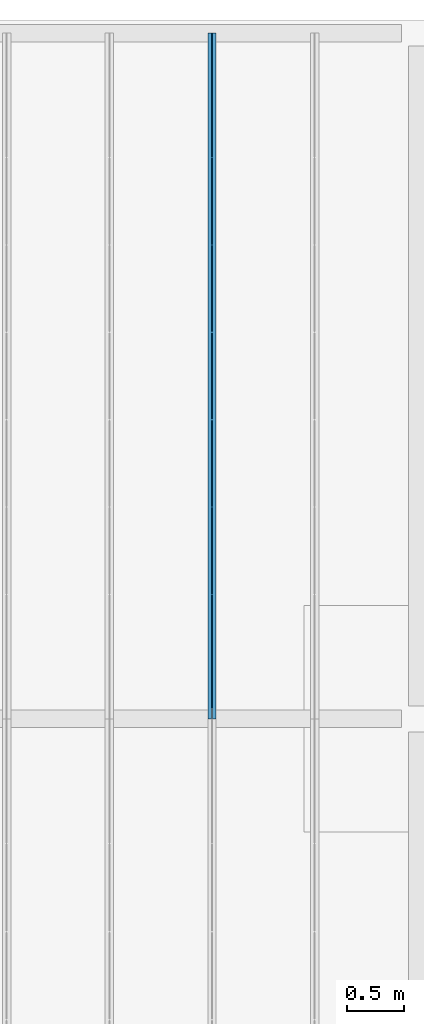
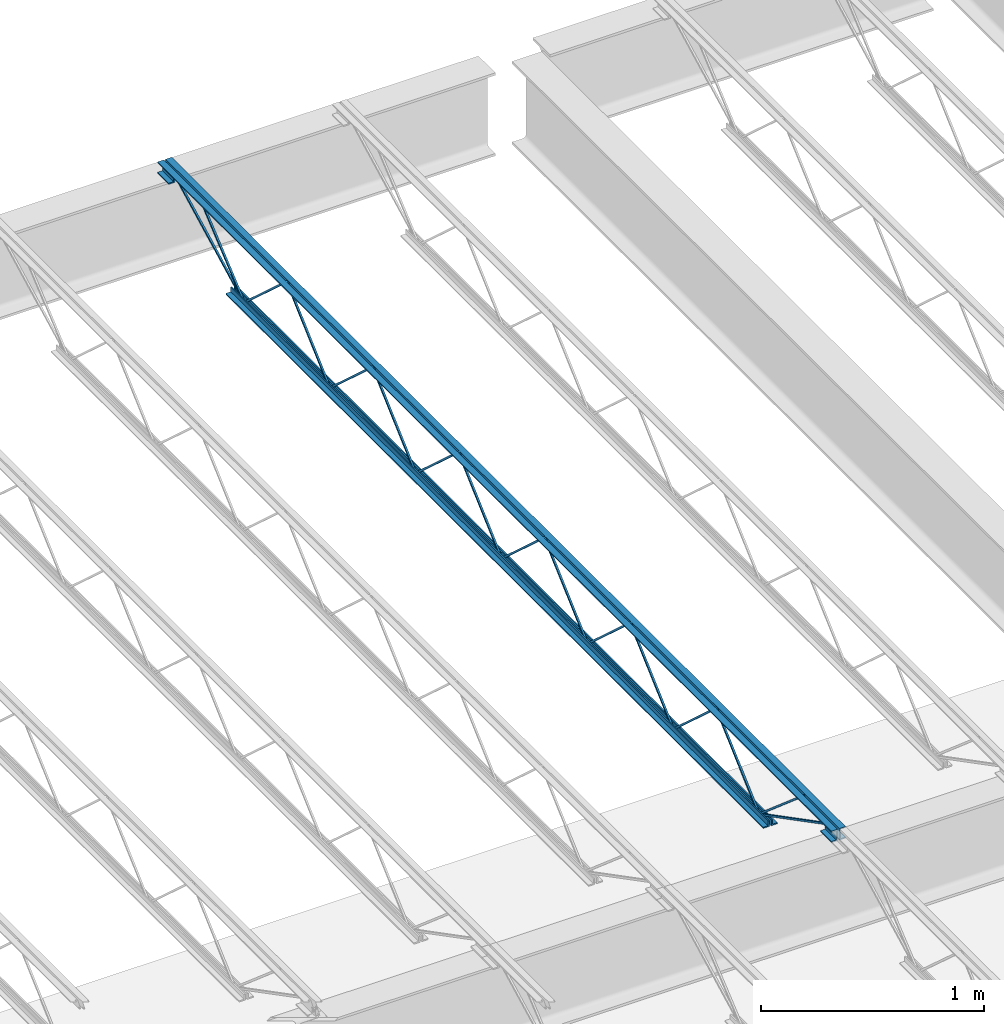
# One storey, part 44 of 75: 1 beam.
"""IFC2X3 building model written with IfcOpenShell, lengths in metres."""

import ifcopenshell
import ifcopenshell.guid

model = None  # the IFC model being written
_history = None  # IfcOwnerHistory: only IFC2X3 demands one
_inside = {}  # id of a spatial element -> (the spatial element, [elements in it])
_under = {}  # id of a project, library or spatial element -> (it, [spatial elements below it])
_declared = {}  # id of a project -> (the project, [libraries it declares])
_typed = {}  # id of a type object -> (the type object, [elements of that type])
_made_of = {}  # id of a material, layer set ... -> (it, [elements and type objects made of it])


def new_model(schema):
    """Start an empty IFC model of exactly this schema.

    Asked for "IFC4X3", IfcOpenShell would pick the latest addendum, in which some entities
    have other attributes; the version numbers below select the first issue.
    IFC2X3 requires an IfcOwnerHistory on every rooted entity: one is made here for all.
    """
    global model, _history
    if schema == "IFC4X3":
        model = ifcopenshell.file(schema_version=(4, 3, 0, 0))
    else:
        model = ifcopenshell.file(schema=schema)
    _inside.clear()
    _under.clear()
    _declared.clear()
    _typed.clear()
    _made_of.clear()
    _history = None
    if model.schema == "IFC2X3":
        org = make("IfcOrganization", Name="unknown")
        user = make(
            "IfcPersonAndOrganization",
            ThePerson=make("IfcPerson", FamilyName="unknown"),
            TheOrganization=org,
        )
        app = make(
            "IfcApplication",
            ApplicationDeveloper=org,
            Version="unknown",
            ApplicationFullName="unknown",
            ApplicationIdentifier="unknown",
        )
        _history = make(
            "IfcOwnerHistory",
            OwningUser=user,
            OwningApplication=app,
            ChangeAction="ADDED",
            CreationDate=0,
        )
    return model


def make(cls, **values):
    """One entity of the class cls with the attributes given. An attribute that is None is left unset."""
    return model.create_entity(
        cls, **{name: value for name, value in values.items() if value is not None}
    )


def entity(cls, *values):
    """Any entity or typed value of the class cls, its attributes in the order of the schema. None: left unset."""
    e = model.create_entity(cls)
    for i, value in enumerate(values):
        if value is not None:
            e[i] = value
    return e


def rooted(cls, **values):
    """An entity with a GlobalId (a new one), such as an element, a storey or a relation."""
    return make(cls, GlobalId=ifcopenshell.guid.new(), OwnerHistory=_history, **values)


def si_unit(unit_type, name, prefix=None):
    """IfcSIUnit, for example si_unit("LENGTHUNIT", "METRE", prefix="MILLI")."""
    return make("IfcSIUnit", UnitType=unit_type, Prefix=prefix, Name=name)


def converted_unit(unit_type, name, factor, base, dimensions=None, offset=None):
    """IfcConversionBasedUnit, such as the inch: factor (a typed value) times the base unit."""
    return make(
        "IfcConversionBasedUnit"
        if offset is None
        else "IfcConversionBasedUnitWithOffset",
        ConversionOffset=offset,
        Dimensions=None
        if dimensions is None
        else entity("IfcDimensionalExponents", *dimensions),
        UnitType=unit_type,
        Name=name,
        ConversionFactor=make(
            "IfcMeasureWithUnit", ValueComponent=factor, UnitComponent=base
        ),
    )


def assignment(units):
    """IfcUnitAssignment: the units of a project."""
    return None if units is None else make("IfcUnitAssignment", Units=units)


def point(xyz):
    """IfcCartesianPoint."""
    return None if xyz is None else make("IfcCartesianPoint", Coordinates=xyz)


def direction(xyz):
    """IfcDirection."""
    return None if xyz is None else make("IfcDirection", DirectionRatios=xyz)


def frame(location, z_axis=None, x_axis=None):
    """IfcAxis2Placement3D, a coordinate frame: its origin and axes. An axis left out is left unset."""
    return make(
        "IfcAxis2Placement3D",
        Location=point(location),
        Axis=direction(z_axis),
        RefDirection=direction(x_axis),
    )


def origin():
    """The frame at (0, 0, 0) with its axes left unset."""
    return frame((0.0, 0.0, 0.0))


def place(relative_to, where):
    """IfcLocalPlacement: puts the frame where relative to a parent placement (None: the world)."""
    return make(
        "IfcLocalPlacement", PlacementRelTo=relative_to, RelativePlacement=where
    )


def context(
    kind, dimensions, precision=None, world=None, true_north=None, identifier=None
):
    """IfcGeometricRepresentationContext, for example the 3D "Model" context."""
    return make(
        "IfcGeometricRepresentationContext",
        ContextIdentifier=identifier,
        ContextType=kind,
        CoordinateSpaceDimension=dimensions,
        Precision=precision,
        WorldCoordinateSystem=world,
        TrueNorth=true_north,
    )


def project(units=None, contexts=None):
    """IfcProject with its units and contexts."""
    return rooted(
        "IfcProject",
        Name="project",
        RepresentationContexts=contexts,
        UnitsInContext=assignment(units),
    )


def spatial(cls, under=None, at=None, **own):
    """A site, building, storey or space (cls), placed at a placement, below another one or the project."""
    s = rooted(cls, ObjectPlacement=at, **own)
    if under is not None:
        _under.setdefault(under.id(), (under, []))[1].append(s)
    return s


def faces_of(points, faces, orient=None, outer=None):
    """IfcFace entities. A face is a list of loops; a loop is a list of indices into points, from 0.

    orient and outer hold one flag for each loop. By default every Orientation is true, the
    first loop of a face is its IfcFaceOuterBound and the others are IfcFaceBound.
    """
    made = []
    for i, loops in enumerate(faces):
        bounds = []
        for j, loop in enumerate(loops):
            is_outer = j == 0 if outer is None else outer[i][j]
            bounds.append(
                make(
                    "IfcFaceOuterBound" if is_outer else "IfcFaceBound",
                    Bound=make("IfcPolyLoop", Polygon=[points[k] for k in loop]),
                    Orientation=True if orient is None else orient[i][j],
                )
            )
        made.append(make("IfcFace", Bounds=bounds))
    return made


def face_set(faces, orient=None, outer=None):
    """The faces of one IfcConnectedFaceSet. surface_model builds it on its shared points."""
    return ("IfcConnectedFaceSet", faces, orient, outer)


def surface_model(cls, points, shells):
    """IfcFaceBasedSurfaceModel or IfcShellBasedSurfaceModel (cls): surfaces that need not close."""
    shared = [point(p) for p in points]
    made = [make(c, CfsFaces=faces_of(shared, fs, o, b)) for c, fs, o, b in shells]
    if cls == "IfcFaceBasedSurfaceModel":
        return make(cls, FbsmFaces=made)
    return make(cls, SbsmBoundary=made)


def shape(context_of_items, identifier, shape_type, items):
    """IfcShapeRepresentation: the items that make up one representation, for example the "Body"."""
    return make(
        "IfcShapeRepresentation",
        ContextOfItems=context_of_items,
        RepresentationIdentifier=identifier,
        RepresentationType=shape_type,
        Items=items,
    )


def made_of(thing, what):
    """Note that an element or type object is made of a material, layer set ...; save() writes the relation."""
    if what is not None:
        _made_of.setdefault(what.id(), (what, []))[1].append(thing)
    return thing


def element(
    cls,
    number,
    at=None,
    inside=None,
    cuts=None,
    type_object=None,
    material=None,
    context=None,
    identifier="Body",
    shape_type=None,
    held_by="IfcProductDefinitionShape",
    body=None,
    shapes=None,
    **own,
):
    """One element of the class cls, such as IfcWall. Its Tag is "e" and its number.

    at: its placement. inside: the storey or other place that contains it. cuts: it is an
    opening in that element (IfcRelVoidsElement). A single representation is given by context,
    identifier, shape_type and body (its items); several are given by shapes. held_by: the class
    of the entity that holds the representations. save() writes the other relations.
    """
    e = rooted(cls, Tag="e%d" % number, ObjectPlacement=at, **own)
    if body is not None:
        shapes = [shape(context, identifier, shape_type, body)]
    if shapes is not None:
        e.Representation = make(held_by, Representations=shapes)
    if inside is not None:
        _inside.setdefault(inside.id(), (inside, []))[1].append(e)
    if cuts is not None:
        rooted(
            "IfcRelVoidsElement", RelatingBuildingElement=cuts, RelatedOpeningElement=e
        )
    if type_object is not None:
        _typed.setdefault(type_object.id(), (type_object, []))[1].append(e)
    return made_of(e, material)


def aggregate(whole, parts):
    """IfcRelAggregates: a whole, such as a stair, and the parts it consists of."""
    return rooted("IfcRelAggregates", RelatingObject=whole, RelatedObjects=parts)


def save(model, path):
    """Write the relations noted so far, then the file.

    IfcRelAggregates (storeys below a building ...), IfcRelContainedInSpatialStructure (elements
    in a storey), IfcRelDefinesByType, IfcRelAssociatesMaterial and IfcRelDeclares: one each for
    every whole, place, type object, material and project.
    """
    for whole, parts in _under.values():
        aggregate(whole, parts)
    for where, things in _inside.values():
        rooted(
            "IfcRelContainedInSpatialStructure",
            RelatedElements=things,
            RelatingStructure=where,
        )
    for kind, things in _typed.values():
        rooted("IfcRelDefinesByType", RelatedObjects=things, RelatingType=kind)
    for what, things in _made_of.values():
        rooted("IfcRelAssociatesMaterial", RelatedObjects=things, RelatingMaterial=what)
    for by, libraries in _declared.values():
        rooted("IfcRelDeclares", RelatingContext=by, RelatedDefinitions=libraries)
    model.write(path)


model = new_model("IFC2X3")

# Units and contexts
model_context = context("Model", 3, precision=1e-09, world=origin())
plan_context = context("Plan", 3, precision=1e-09, world=origin())
ifc_project = project(units=[si_unit("LENGTHUNIT", "METRE"), si_unit("AREAUNIT", "SQUARE_METRE"), si_unit("VOLUMEUNIT", "CUBIC_METRE"), converted_unit("PLANEANGLEUNIT", "DEGREE", entity("IfcRatioMeasure", 0.01745329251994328), si_unit("PLANEANGLEUNIT", "RADIAN"), dimensions=[0, 0, 0, 0, 0, 0, 0]), si_unit("TIMEUNIT", "SECOND")], contexts=[model_context, plan_context])

# Site, building, storey
site_placement = place(None, origin())
site = spatial("IfcSite", under=ifc_project, at=site_placement, Name="Default", CompositionType="ELEMENT")
building_placement = place(site_placement, origin())
building = spatial("IfcBuilding", under=site, at=building_placement, CompositionType="ELEMENT")
storey_placement = place(building_placement, origin())
storey = spatial("IfcBuildingStorey", under=building, at=storey_placement, Name="First Floor", CompositionType="ELEMENT", Elevation=-3.531500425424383e-13)

# Beam
beam_placement = place(storey_placement, frame((-42.50817857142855, 50.09000000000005, 4.112000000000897), z_axis=(0.0, 0.0, 1.0), x_axis=(-1.0, 0.0, 0.0)))
element("IfcBeam", 1, at=beam_placement, inside=storey, Name="M_K-Series Bar Joist-Rod Web:14K1:14K1", ObjectType="M_K-Series Bar Joist-Rod Web:14K1", context=model_context, shape_type="SurfaceModel", body=[
    surface_model("IfcFaceBasedSurfaceModel", [(-0.03199999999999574, -2.254000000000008, 0.01110000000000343), (-0.04150000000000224, -2.254000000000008, 0.01110000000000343), (-0.04150000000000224, -2.254000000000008, 0.001600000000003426), (-0.03199999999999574, -2.254000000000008, 0.001600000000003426), (-0.04149999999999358, -2.252655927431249, 0.01110000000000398), (-0.03199999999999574, -2.252655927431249, 0.01110000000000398), (-0.04150000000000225, -2.248994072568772, 0.001600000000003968), (-0.04150000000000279, -1.869844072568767, 0.3449000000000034), (-0.0415000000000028, -1.86715592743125, 0.3449000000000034), (-0.04150000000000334, -1.48800592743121, 0.001600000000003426), (-0.04150000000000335, -1.483000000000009, 0.001600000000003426), (-0.04150000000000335, -1.483000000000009, 0.01110000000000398), (-0.04150000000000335, -1.484344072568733, 0.01110000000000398), (-0.04150000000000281, -1.863494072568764, 0.3544000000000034), (-0.04150000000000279, -1.873505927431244, 0.3544000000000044), (-0.03200000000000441, -2.248994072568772, 0.001600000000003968), (-0.03199999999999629, -1.869844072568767, 0.3449000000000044), (-0.0319999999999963, -1.86715592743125, 0.3449000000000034), (-0.03199999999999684, -1.48800592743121, 0.001600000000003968), (-0.03199999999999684, -1.483000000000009, 0.001600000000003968), (-0.03199999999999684, -1.483000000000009, 0.01110000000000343), (-0.03199999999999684, -1.484344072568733, 0.01110000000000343), (-0.0319999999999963, -1.863494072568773, 0.3544000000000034), (-0.03199999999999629, -1.873505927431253, 0.3544000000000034), (-0.03199999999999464, -3.025000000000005, 0.01110000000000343), (-0.04150000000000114, -3.025000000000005, 0.01110000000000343), (-0.04150000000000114, -3.025000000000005, 0.001600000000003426), (-0.03199999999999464, -3.025000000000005, 0.001600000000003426), (-0.04149999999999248, -3.023655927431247, 0.01110000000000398), (-0.03199999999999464, -3.023655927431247, 0.01110000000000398), (-0.04150000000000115, -3.01999407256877, 0.001600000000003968), (-0.04150000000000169, -2.640844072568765, 0.3449000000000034), (-0.04150000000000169, -2.638155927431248, 0.3449000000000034), (-0.04150000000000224, -2.259005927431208, 0.001600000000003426), (-0.04150000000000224, -2.254000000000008, 0.01110000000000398), (-0.04150000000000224, -2.255344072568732, 0.01110000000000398), (-0.0415000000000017, -2.634494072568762, 0.3544000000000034), (-0.04150000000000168, -2.644505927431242, 0.3544000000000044), (-0.03200000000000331, -3.01999407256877, 0.001600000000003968), (-0.03199999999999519, -2.640844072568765, 0.3449000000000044), (-0.03199999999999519, -2.638155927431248, 0.3449000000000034), (-0.03199999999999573, -2.259005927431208, 0.001600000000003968), (-0.03199999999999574, -2.254000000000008, 0.001600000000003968), (-0.03199999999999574, -2.255344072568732, 0.01110000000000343), (-0.0319999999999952, -2.634494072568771, 0.3544000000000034), (-0.03199999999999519, -2.644505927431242, 0.3544000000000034), (-0.03199999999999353, -3.796000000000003, 0.01110000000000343), (-0.04150000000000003, -3.796000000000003, 0.01110000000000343), (-0.04150000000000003, -3.796000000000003, 0.001600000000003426), (-0.03199999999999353, -3.796000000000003, 0.001600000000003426), (-0.04149999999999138, -3.794655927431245, 0.01110000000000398), (-0.03199999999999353, -3.794655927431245, 0.01110000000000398), (-0.04150000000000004, -3.790994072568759, 0.001600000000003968), (-0.04150000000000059, -3.411844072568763, 0.3449000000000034), (-0.04150000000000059, -3.409155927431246, 0.3449000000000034), (-0.04150000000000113, -3.030005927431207, 0.001600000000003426), (-0.04150000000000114, -3.025000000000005, 0.01110000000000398), (-0.04150000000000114, -3.026344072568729, 0.01110000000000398), (-0.0415000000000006, -3.40549407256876, 0.3544000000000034), (-0.04150000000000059, -3.41550592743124, 0.3544000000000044), (-0.03200000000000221, -3.790994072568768, 0.001600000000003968), (-0.03199999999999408, -3.411844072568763, 0.3449000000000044), (-0.03199999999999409, -3.409155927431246, 0.3449000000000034), (-0.03199999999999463, -3.030005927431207, 0.001600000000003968), (-0.03199999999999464, -3.025000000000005, 0.001600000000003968), (-0.03199999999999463, -3.026344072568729, 0.01110000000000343), (-0.03199999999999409, -3.40549407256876, 0.3544000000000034), (-0.03199999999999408, -3.41550592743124, 0.3544000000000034), (-0.03199999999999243, -4.567000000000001, 0.01110000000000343), (-0.04149999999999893, -4.567000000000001, 0.01110000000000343), (-0.04149999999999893, -4.567000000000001, 0.001600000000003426), (-0.03199999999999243, -4.567000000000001, 0.001600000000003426), (-0.04149999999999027, -4.565655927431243, 0.01110000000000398), (-0.03199999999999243, -4.565655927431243, 0.01110000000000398), (-0.04149999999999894, -4.561994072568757, 0.001600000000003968), (-0.04149999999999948, -4.182844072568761, 0.3449000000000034), (-0.04149999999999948, -4.180155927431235, 0.3449000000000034), (-0.04150000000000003, -3.801005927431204, 0.001600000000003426), (-0.04150000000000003, -3.795999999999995, 0.001600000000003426), (-0.04150000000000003, -3.796000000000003, 0.01110000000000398), (-0.04150000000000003, -3.797344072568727, 0.01110000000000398), (-0.04149999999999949, -4.176494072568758, 0.3544000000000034), (-0.04149999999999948, -4.186505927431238, 0.3544000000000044), (-0.0320000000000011, -4.561994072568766, 0.001600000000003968), (-0.03199999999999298, -4.182844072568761, 0.3449000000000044), (-0.03199999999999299, -4.180155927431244, 0.3449000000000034), (-0.03199999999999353, -3.801005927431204, 0.001600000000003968), (-0.03199999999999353, -3.796000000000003, 0.001600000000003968), (-0.03199999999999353, -3.795999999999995, 0.01110000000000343), (-0.03199999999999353, -3.797344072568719, 0.01110000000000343), (-0.03199999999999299, -4.176494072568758, 0.3544000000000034), (-0.03199999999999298, -4.186505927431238, 0.3544000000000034), (-0.03199999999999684, -1.483000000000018, 0.01109999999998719), (-0.04150000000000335, -1.483000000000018, 0.01109999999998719), (-0.04150000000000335, -1.483000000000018, 0.001599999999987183), (-0.03199999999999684, -1.483000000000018, 0.001599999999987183), (-0.04150000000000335, -1.48165592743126, 0.01109999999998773), (-0.03200000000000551, -1.48165592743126, 0.01109999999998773), (-0.04150000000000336, -1.477994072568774, 0.001599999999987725), (-0.0415000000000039, -1.098844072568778, 0.3448999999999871), (-0.0415000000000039, -1.096155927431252, 0.3448999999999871), (-0.04150000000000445, -0.717005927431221, 0.001599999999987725), (-0.04150000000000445, -0.7120000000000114, 0.001599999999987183), (-0.04150000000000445, -0.7120000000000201, 0.01109999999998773), (-0.04150000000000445, -0.713344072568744, 0.01109999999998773), (-0.04150000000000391, -1.092494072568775, 0.3543999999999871), (-0.04150000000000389, -1.102505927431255, 0.3543999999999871), (-0.03200000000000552, -1.477994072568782, 0.001599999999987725), (-0.03200000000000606, -1.098844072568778, 0.3448999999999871), (-0.03200000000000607, -1.09615592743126, 0.3448999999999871), (-0.03200000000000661, -0.717005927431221, 0.001599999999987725), (-0.03200000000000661, -0.7120000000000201, 0.001599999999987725), (-0.03199999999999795, -0.7120000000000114, 0.01109999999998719), (-0.03200000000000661, -0.7133440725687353, 0.01109999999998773), (-0.03200000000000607, -1.092494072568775, 0.3543999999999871), (-0.03200000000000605, -1.102505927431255, 0.3543999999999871), (-0.03199999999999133, -5.33799999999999, 0.01110000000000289), (-0.04149999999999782, -5.33799999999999, 0.01110000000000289), (-0.04149999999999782, -5.33799999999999, 0.001600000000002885), (-0.03199999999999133, -5.33799999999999, 0.001600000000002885), (-0.04149999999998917, -5.336655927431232, 0.01110000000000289), (-0.03199999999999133, -5.336655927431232, 0.01110000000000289), (-0.04149999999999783, -5.332994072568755, 0.001600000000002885), (-0.04149999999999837, -4.95384407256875, 0.3449000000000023), (-0.04149999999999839, -4.951155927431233, 0.3449000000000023), (-0.04149999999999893, -4.572005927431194, 0.001600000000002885), (-0.04149999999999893, -4.566999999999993, 0.001600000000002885), (-0.04149999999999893, -4.566999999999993, 0.01110000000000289), (-0.04149999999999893, -4.568344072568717, 0.01110000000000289), (-0.04149999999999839, -4.947494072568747, 0.3544000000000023), (-0.04149999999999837, -4.957505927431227, 0.3544000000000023), (-0.03199999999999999, -5.332994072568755, 0.001600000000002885), (-0.03199999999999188, -4.95384407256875, 0.3449000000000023), (-0.03199999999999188, -4.951155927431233, 0.3449000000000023), (-0.03199999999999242, -4.572005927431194, 0.001600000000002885), (-0.03199999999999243, -4.566999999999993, 0.001600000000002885), (-0.03199999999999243, -4.566999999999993, 0.01110000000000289), (-0.03199999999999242, -4.568344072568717, 0.01110000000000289), (-0.03199999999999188, -4.947494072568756, 0.3544000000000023), (-0.03199999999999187, -4.957505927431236, 0.3544000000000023), (-0.04150000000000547, 0.0, 0.3559999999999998), (-0.07350000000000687, 0.0, 0.3559999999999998), (-0.07350000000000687, 0.0, 0.349499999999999), (-0.048000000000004, 0.0, 0.349499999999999), (-0.048000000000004, 0.0, 0.3239999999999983), (-0.04150000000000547, 0.0, 0.3239999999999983), (-0.03200000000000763, 0.0, 0.3559999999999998), (-0.03200000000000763, 0.0, 0.3239999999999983), (-0.02550000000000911, 0.0, 0.3239999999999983), (-0.02550000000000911, 0.0, 0.349499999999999), (0.0, 0.0, 0.349499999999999), (0.0, 0.0, 0.3559999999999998), (-0.04149999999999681, -6.049999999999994, 0.3559999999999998), (-0.07349999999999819, -6.049999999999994, 0.3559999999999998), (-0.07349999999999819, -6.049999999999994, 0.349499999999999), (-0.04799999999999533, -6.049999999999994, 0.349499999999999), (-0.04799999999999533, -6.049999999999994, 0.3239999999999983), (-0.04149999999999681, -6.049999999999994, 0.3239999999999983), (-0.03199999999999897, -6.049999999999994, 0.3559999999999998), (-0.03199999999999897, -6.049999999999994, 0.3239999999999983), (-0.02550000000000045, -6.049999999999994, 0.3239999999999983), (-0.02550000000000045, -6.049999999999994, 0.349499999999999), (0.0, -6.049999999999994, 0.349499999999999), (0.0, -6.049999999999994, 0.3559999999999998), (-0.03199999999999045, -5.950000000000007, 0.2924999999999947), (0.0, -5.950000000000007, 0.2924999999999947), (0.0, -5.950000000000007, 0.2989999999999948), (-0.02549999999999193, -5.950000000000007, 0.2989999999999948), (-0.02549999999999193, -5.950000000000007, 0.3239999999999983), (-0.03199999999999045, -5.950000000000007, 0.3239999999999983), (-0.07349999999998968, -5.950000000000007, 0.2924999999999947), (-0.04149999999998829, -5.950000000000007, 0.2924999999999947), (-0.04149999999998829, -5.950000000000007, 0.3239999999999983), (-0.04799999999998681, -5.950000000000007, 0.3239999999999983), (-0.04799999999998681, -5.950000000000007, 0.2989999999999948), (-0.07349999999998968, -5.950000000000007, 0.2989999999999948), (-0.03199999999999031, -6.049999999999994, 0.2924999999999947), (0.0, -6.049999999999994, 0.2924999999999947), (0.0, -6.049999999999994, 0.2989999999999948), (-0.02549999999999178, -6.049999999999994, 0.2989999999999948), (-0.02549999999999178, -6.049999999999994, 0.3239999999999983), (-0.03199999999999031, -6.049999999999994, 0.3239999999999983), (-0.07349999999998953, -6.049999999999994, 0.2924999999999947), (-0.04149999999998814, -6.049999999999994, 0.2924999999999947), (-0.04149999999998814, -6.049999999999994, 0.3239999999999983), (-0.04799999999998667, -6.049999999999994, 0.3239999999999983), (-0.04799999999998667, -6.049999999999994, 0.2989999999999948), (-0.07349999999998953, -6.049999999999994, 0.2989999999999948), (-0.04149999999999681, 0.0, 0.2924999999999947), (-0.04149999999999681, 0.0, 0.3239999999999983), (-0.04799999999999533, 0.0, 0.3239999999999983), (-0.04799999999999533, 0.0, 0.2989999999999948), (-0.07349999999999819, 0.0, 0.2989999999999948), (-0.07349999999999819, 0.0, 0.2924999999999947), (-0.03199999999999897, 0.0, 0.2924999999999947), (0.0, 0.0, 0.2924999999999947), (0.0, 0.0, 0.2989999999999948), (-0.02550000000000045, 0.0, 0.2989999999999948), (-0.02550000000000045, 0.0, 0.3239999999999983), (-0.03199999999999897, 0.0, 0.3239999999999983), (-0.04149999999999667, -0.0999999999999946, 0.2924999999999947), (-0.04149999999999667, -0.0999999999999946, 0.3239999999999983), (-0.04799999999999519, -0.0999999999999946, 0.3239999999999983), (-0.04799999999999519, -0.0999999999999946, 0.2989999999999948), (-0.07349999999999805, -0.0999999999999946, 0.2989999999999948), (-0.07349999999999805, -0.0999999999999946, 0.2924999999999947), (-0.03199999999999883, -0.0999999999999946, 0.2924999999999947), (0.0, -0.0999999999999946, 0.2924999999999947), (0.0, -0.0999999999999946, 0.2989999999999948), (-0.0255000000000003, -0.0999999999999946, 0.2989999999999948), (-0.0255000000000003, -0.0999999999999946, 0.3239999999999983), (-0.03199999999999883, -0.0999999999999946, 0.3239999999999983), (-0.0415000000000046, -0.6119999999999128, 0.0), (-0.0415000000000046, -0.6119999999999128, 0.03199999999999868), (-0.04800000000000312, -0.6119999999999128, 0.03199999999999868), (-0.04800000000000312, -0.6119999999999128, 0.006499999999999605), (-0.07350000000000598, -0.6119999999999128, 0.006499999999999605), (-0.07350000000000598, -0.6119999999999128, 0.0), (-0.03200000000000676, -0.6119999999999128, 0.0), (0.0, -0.6119999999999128, 0.0), (0.0, -0.6119999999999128, 0.006499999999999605), (-0.02550000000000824, -0.6119999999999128, 0.006499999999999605), (-0.02550000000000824, -0.6119999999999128, 0.03199999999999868), (-0.03200000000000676, -0.6119999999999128, 0.03199999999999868), (-0.04149999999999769, -5.437999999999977, 0.0), (-0.04149999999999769, -5.437999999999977, 0.03199999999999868), (-0.04799999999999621, -5.437999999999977, 0.03199999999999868), (-0.04799999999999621, -5.437999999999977, 0.006499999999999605), (-0.07349999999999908, -5.437999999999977, 0.006499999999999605), (-0.07349999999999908, -5.437999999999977, 0.0), (-0.03199999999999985, -5.437999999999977, 0.0), (0.0, -5.437999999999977, 0.0), (0.0, -5.437999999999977, 0.006499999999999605), (-0.02550000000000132, -5.437999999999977, 0.006499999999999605), (-0.02550000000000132, -5.437999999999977, 0.03199999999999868), (-0.03199999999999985, -5.437999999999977, 0.03199999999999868), (-0.03199999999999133, -5.335811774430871, 0.01056594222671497), (-0.04149999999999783, -5.335811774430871, 0.01056594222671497), (-0.04149999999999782, -5.34018822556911, 0.002134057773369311), (-0.03199999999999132, -5.34018822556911, 0.002134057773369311), (-0.03199999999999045, -5.948840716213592, 0.3287499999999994), (-0.03199999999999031, -6.049999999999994, 0.3287499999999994), (-0.03199999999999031, -6.049999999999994, 0.3192499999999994), (-0.03199999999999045, -5.951159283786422, 0.3192499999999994), (-0.04149999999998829, -5.951159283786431, 0.3192499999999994), (-0.04149999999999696, -5.948840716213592, 0.3287499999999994), (-0.04149999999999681, -6.049999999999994, 0.3287499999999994), (-0.04149999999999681, -6.049999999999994, 0.3192499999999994), (-0.03199999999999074, -5.743457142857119, 0.341700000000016), (-0.04149999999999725, -5.743457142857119, 0.341700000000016), (-0.04149999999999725, -5.743457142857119, 0.332200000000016), (-0.03199999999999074, -5.743457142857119, 0.332200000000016), (-0.0414999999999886, -5.729024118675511, 0.341700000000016), (-0.03199999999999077, -5.729024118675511, 0.341700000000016), (-0.04149999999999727, -5.732490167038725, 0.332200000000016), (-0.04149999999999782, -5.341058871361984, 0.002716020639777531), (-0.04149999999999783, -5.334941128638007, 0.009983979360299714), (-0.03199999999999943, -5.732490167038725, 0.332200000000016), (-0.03199999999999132, -5.341058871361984, 0.002716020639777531), (-0.03199999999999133, -5.334941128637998, 0.009983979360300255), (-0.03199999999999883, -0.09781177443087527, 0.3197840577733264), (-0.03199999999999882, -0.1021882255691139, 0.3282159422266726), (-0.04150000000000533, -0.1021882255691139, 0.3282159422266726), (-0.04150000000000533, -0.09781177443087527, 0.3197840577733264), (-0.03199999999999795, -0.7098117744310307, 0.002134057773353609), (-0.03199999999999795, -0.7141882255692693, 0.01056594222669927), (-0.04150000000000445, -0.7141882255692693, 0.01056594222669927), (-0.04150000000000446, -0.7098117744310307, 0.002134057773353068), (-0.03199999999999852, -0.3088922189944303, 0.3460454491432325), (-0.03199999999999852, -0.3150792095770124, 0.3532545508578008), (-0.04150000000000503, -0.3150792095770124, 0.3532545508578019), (-0.04150000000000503, -0.3088922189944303, 0.3460454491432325), (-0.03199999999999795, -0.7089065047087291, 0.002745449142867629), (-0.03199999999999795, -0.715093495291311, 0.009954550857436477), (-0.04150000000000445, -0.715093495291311, 0.009954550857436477), (-0.04150000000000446, -0.7089065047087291, 0.002745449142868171)], [face_set([[[0, 1, 2, 3]], [[1, 4, 5, 0]], [[2, 6, 7, 8, 9, 10, 11, 12, 13, 14, 4, 1]], [[3, 2, 6, 15]], [[0, 3, 15, 16, 17, 18, 19, 20, 21, 22, 23, 5]], [[4, 5, 23, 14]], [[15, 16, 7, 6]], [[14, 13, 22, 23]], [[16, 7, 8, 17]], [[13, 12, 21, 22]], [[17, 8, 9, 18]], [[20, 11, 10, 19]], [[12, 11, 20, 21]], [[18, 9, 10, 19]]]), face_set([[[24, 25, 26, 27]], [[25, 28, 29, 24]], [[26, 30, 31, 32, 33, 2, 34, 35, 36, 37, 28, 25]], [[27, 26, 30, 38]], [[24, 27, 38, 39, 40, 41, 42, 0, 43, 44, 45, 29]], [[28, 29, 45, 37]], [[38, 39, 31, 30]], [[37, 36, 44, 45]], [[39, 31, 32, 40]], [[36, 35, 43, 44]], [[40, 32, 33, 41]], [[0, 34, 2, 42]], [[35, 34, 0, 43]], [[41, 33, 2, 42]]]), face_set([[[46, 47, 48, 49]], [[47, 50, 51, 46]], [[48, 52, 53, 54, 55, 26, 56, 57, 58, 59, 50, 47]], [[49, 48, 52, 60]], [[46, 49, 60, 61, 62, 63, 64, 24, 65, 66, 67, 51]], [[50, 51, 67, 59]], [[60, 61, 53, 52]], [[59, 58, 66, 67]], [[61, 53, 54, 62]], [[58, 57, 65, 66]], [[62, 54, 55, 63]], [[24, 56, 26, 64]], [[57, 56, 24, 65]], [[63, 55, 26, 64]]]), face_set([[[68, 69, 70, 71]], [[69, 72, 73, 68]], [[70, 74, 75, 76, 77, 78, 79, 80, 81, 82, 72, 69]], [[71, 70, 74, 83]], [[68, 71, 83, 84, 85, 86, 87, 88, 89, 90, 91, 73]], [[72, 73, 91, 82]], [[83, 84, 75, 74]], [[82, 81, 90, 91]], [[84, 75, 76, 85]], [[81, 80, 89, 90]], [[85, 76, 77, 86]], [[88, 79, 78, 87]], [[80, 79, 88, 89]], [[86, 77, 78, 87]]]), face_set([[[92, 93, 94, 95]], [[93, 96, 97, 92]], [[94, 98, 99, 100, 101, 102, 103, 104, 105, 106, 96, 93]], [[95, 94, 98, 107]], [[92, 95, 107, 108, 109, 110, 111, 112, 113, 114, 115, 97]], [[96, 97, 115, 106]], [[107, 108, 99, 98]], [[106, 105, 114, 115]], [[108, 99, 100, 109]], [[105, 104, 113, 114]], [[109, 100, 101, 110]], [[112, 103, 102, 111]], [[104, 103, 112, 113]], [[110, 101, 102, 111]]]), face_set([[[116, 117, 118, 119]], [[117, 120, 121, 116]], [[118, 122, 123, 124, 125, 126, 127, 128, 129, 130, 120, 117]], [[119, 118, 122, 131]], [[116, 119, 131, 132, 133, 134, 135, 136, 137, 138, 139, 121]], [[120, 121, 139, 130]], [[131, 132, 123, 122]], [[130, 129, 138, 139]], [[132, 123, 124, 133]], [[129, 128, 137, 138]], [[133, 124, 125, 134]], [[136, 127, 126, 135]], [[128, 127, 136, 137]], [[134, 125, 126, 135]]]), face_set([[[140, 141, 142, 143, 144, 145]], [[146, 147, 148, 149, 150, 151]], [[152, 153, 154, 155, 156, 157]], [[158, 159, 160, 161, 162, 163]], [[145, 140, 152, 157]], [[144, 145, 157, 156]], [[143, 155, 156, 144]], [[142, 143, 155, 154]], [[141, 153, 154, 142]], [[140, 152, 153, 141]], [[151, 163, 158, 146]], [[150, 151, 163, 162]], [[149, 150, 162, 161]], [[148, 149, 161, 160]], [[147, 148, 160, 159]], [[146, 158, 159, 147]]]), face_set([[[164, 165, 166, 167, 168, 169]], [[170, 171, 172, 173, 174, 175]], [[176, 177, 178, 179, 180, 181]], [[182, 183, 184, 185, 186, 187]], [[169, 181, 176, 164]], [[168, 180, 181, 169]], [[167, 168, 180, 179]], [[166, 178, 179, 167]], [[165, 166, 178, 177]], [[164, 165, 177, 176]], [[175, 187, 182, 170]], [[174, 186, 187, 175]], [[173, 185, 186, 174]], [[172, 184, 185, 173]], [[171, 172, 184, 183]], [[170, 171, 183, 182]]]), face_set([[[188, 189, 190, 191, 192, 193]], [[194, 195, 196, 197, 198, 199]], [[200, 201, 202, 203, 204, 205]], [[206, 207, 208, 209, 210, 211]], [[193, 188, 200, 205]], [[192, 204, 205, 193]], [[191, 203, 204, 192]], [[190, 202, 203, 191]], [[189, 201, 202, 190]], [[188, 189, 201, 200]], [[199, 211, 206, 194]], [[198, 210, 211, 199]], [[197, 198, 210, 209]], [[196, 208, 209, 197]], [[195, 196, 208, 207]], [[194, 195, 207, 206]]]), face_set([[[212, 213, 214, 215, 216, 217]], [[218, 219, 220, 221, 222, 223]], [[224, 225, 226, 227, 228, 229]], [[230, 231, 232, 233, 234, 235]], [[217, 212, 224, 229]], [[216, 228, 229, 217]], [[215, 227, 228, 216]], [[214, 226, 227, 215]], [[213, 225, 226, 214]], [[212, 213, 225, 224]], [[223, 235, 230, 218]], [[222, 234, 235, 223]], [[221, 222, 234, 233]], [[220, 232, 233, 221]], [[219, 220, 232, 231]], [[218, 219, 231, 230]]]), face_set([[[236, 237, 238, 239]], [[239, 236, 240, 241, 242, 243]], [[238, 239, 243, 244]], [[237, 245, 246, 247, 244, 238]], [[236, 240, 245, 237]], [[241, 246, 247, 242]], [[244, 243, 242, 247]], [[240, 241, 246, 245]]]), face_set([[[248, 249, 250, 251]], [[249, 252, 253, 248]], [[250, 254, 255, 256, 252, 249]], [[251, 250, 254, 257]], [[248, 251, 257, 258, 259, 253]], [[259, 256, 255, 258]], [[252, 256, 259, 253]], [[257, 254, 255, 258]]]), face_set([[[260, 261, 262, 263]], [[264, 265, 266, 267]], [[263, 267, 264, 260]], [[262, 266, 267, 263]], [[261, 262, 266, 265]], [[260, 261, 265, 264]]]), face_set([[[268, 269, 270, 271]], [[272, 273, 274, 275]], [[271, 275, 272, 268]], [[270, 274, 275, 271]], [[269, 270, 274, 273]], [[268, 269, 273, 272]]])]),
])

save(model, "model.ifc")
